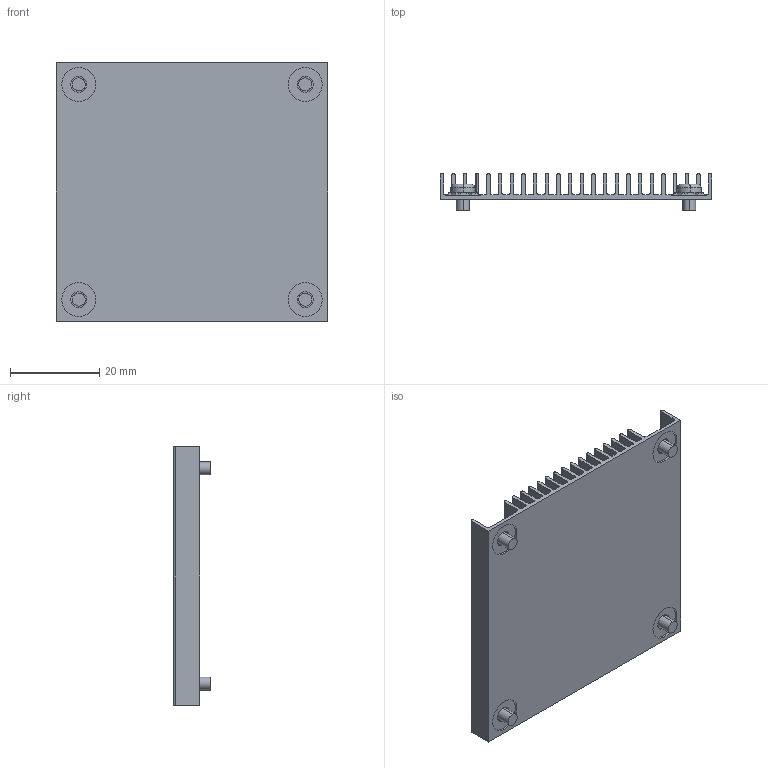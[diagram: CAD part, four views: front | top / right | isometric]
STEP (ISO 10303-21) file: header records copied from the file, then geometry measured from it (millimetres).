
FILE_DESCRIPTION (( 'STEP AP214' ), '1' );
FILE_NAME ('HS1579EBK04.STEP', '2023-03-03T18:59:24', ( '' ), ( '' ), 'SwSTEP 2.0', 'SolidWorks 2020', '' );
FILE_SCHEMA (( 'AUTOMOTIVE_DESIGN' ));
Length unit declared in the file: millimetre
Products named in the file (1): HS1579EBK04
Bounding box: 60.96 x 8.32 x 57.91 mm (x, y, z)
Volume: 8457.5 mm3; surface area: 19617.5 mm2
Topology: 5 solids, 5 shells, 572 faces, 1514 edges, 964 vertices
Faces by surface type: plane 398, cylinder 166, torus 8
Entity records: 24096 total; most frequent: CARTESIAN_POINT 3247, DIRECTION 3048, ORIENTED_EDGE 3028, EDGE_CURVE 1514, VECTOR 1094, LINE 1094, AXIS2_PLACEMENT_3D 977, VERTEX_POINT 964
